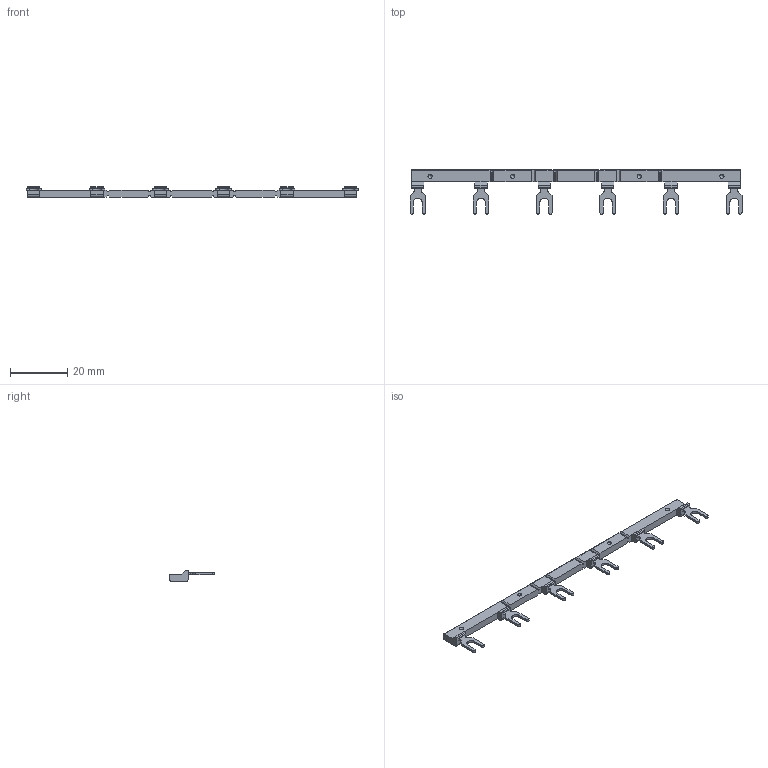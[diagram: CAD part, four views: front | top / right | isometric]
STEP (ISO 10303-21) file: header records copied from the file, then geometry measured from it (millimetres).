
FILE_DESCRIPTION(/* description */ (''),/* implementation_level */ '2;1');
FILE_NAME(/* name */ 'RF-NCP08A-6P.stp',/* time_stamp */ '2022-07-06T15:57:30+08:00',/* author */ (''),/* organization */ (''),/* preprocessor_version */ 'ST-DEVELOPER v16.7',/* originating_system */ 'SIEMENS PLM Software NX 12.0',/* authorisation */ '');
FILE_SCHEMA (('AUTOMOTIVE_DESIGN { 1 0 10303 214 3 1 1 1 }'));
Length unit declared in the file: millimetre
Products named in the file (1): RF-NCP08A-6P
Bounding box: 116.4 x 15.5 x 3.8 mm (x, y, z)
Volume: 1549.9 mm3; surface area: 2292 mm2
Topology: 1 solids, 1 shells, 218 faces, 627 edges, 417 vertices
Faces by surface type: plane 134, cylinder 76, cone 8
Full cylindrical faces by diameter (mm): 1.5 x8
Entity records: 7038 total; most frequent: CARTESIAN_POINT 1233, ORIENTED_EDGE 1200, DIRECTION 1190, EDGE_CURVE 600, LINE 448, VECTOR 448, VERTEX_POINT 414, AXIS2_PLACEMENT_3D 371
